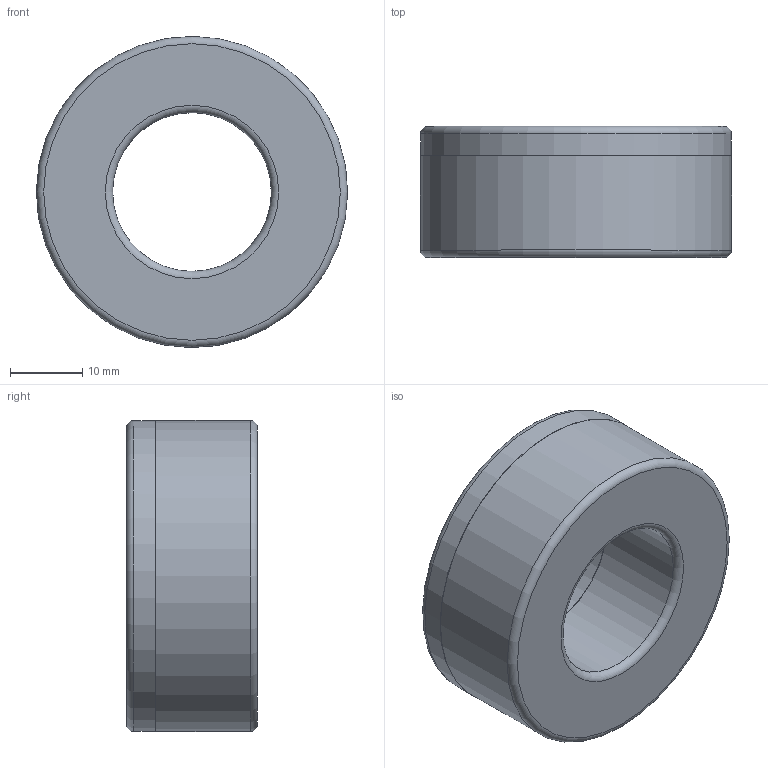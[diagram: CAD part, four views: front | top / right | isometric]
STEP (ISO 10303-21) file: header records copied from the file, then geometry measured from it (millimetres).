
FILE_DESCRIPTION(/* description */ (''),/* implementation_level */ '2;1');
FILE_NAME(/* name */ 'G:\KB-FTKon\CAD\Inventor\Kundenmodelle\Kerne\V317\V317_Shrinkwrap_1.stp',/* time_stamp */ '2020-01-13T10:58:50+01:00',/* author */ ('de881284'),/* organization */ (''),/* preprocessor_version */ 'ST-DEVELOPER v18',/* originating_system */ 'Autodesk Inventor 2020',/* authorisation */ '');
FILE_SCHEMA (('AUTOMOTIVE_DESIGN { 1 0 10303 214 3 1 1 }'));
Length unit declared in the file: millimetre
Products named in the file (1): V317_Shrinkwrap_1
Bounding box: 43 x 18.1 x 43 mm (x, y, z)
Volume: 19338.9 mm3; surface area: 5927.4 mm2
Topology: 1 solids, 1 shells, 18 faces, 40 edges, 28 vertices
Faces by surface type: plane 6, cylinder 6, torus 4, cone 2
Full cylindrical faces by diameter (mm): 21.95 x2, 22.95 x1, 42 x1, 43 x2
Entity records: 609 total; most frequent: DIRECTION 110, CARTESIAN_POINT 87, ORIENTED_EDGE 80, AXIS2_PLACEMENT_3D 51, EDGE_CURVE 40, CIRCLE 32, VERTEX_POINT 28, EDGE_LOOP 24
